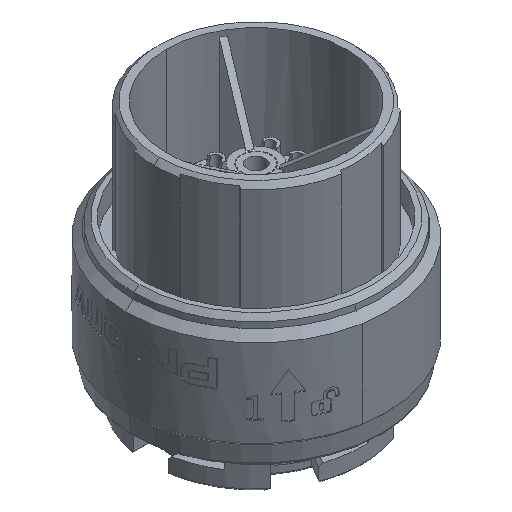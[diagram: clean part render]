
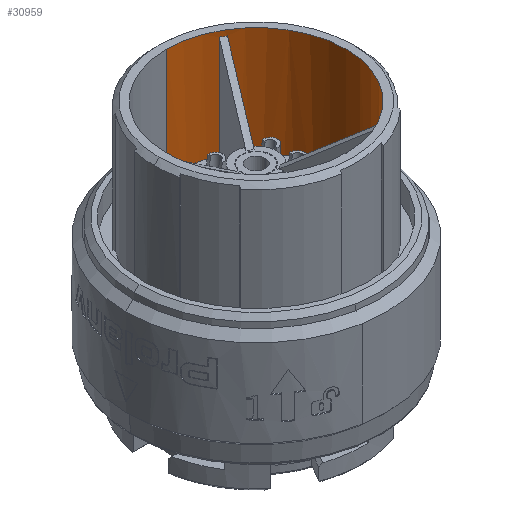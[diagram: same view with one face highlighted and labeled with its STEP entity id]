
A CAD part, isometric view. The second image highlights one B-rep face of the part: STEP entity #30959.
In plain terms, the highlighted cylindrical face has radius 14.8 mm (diameter 29.6 mm), a partial arc.
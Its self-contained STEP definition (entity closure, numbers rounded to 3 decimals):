
#7415=CARTESIAN_POINT('',(0.,0.,145.8));
#7416=DIRECTION('',(0.,0.,1.));
#7417=DIRECTION('',(0.,-1.,0.));
#7418=AXIS2_PLACEMENT_3D('',#7415,#7416,#7417);
#7425=DIRECTION('',(0.,0.,-1.));
#7426=VECTOR('',#7425,11.2);
#7427=CARTESIAN_POINT('',(10.904,-10.007,120.8));
#7428=LINE('',#7427,#7426);
#7429=DIRECTION('',(0.,0.,1.));
#7430=VECTOR('',#7429,11.2);
#7431=CARTESIAN_POINT('',(14.119,-4.439,109.6));
#7432=LINE('',#7431,#7430);
#7433=DIRECTION('',(0.,0.,-1.));
#7434=VECTOR('',#7433,11.2);
#7435=CARTESIAN_POINT('',(14.119,4.439,120.8));
#7436=LINE('',#7435,#7434);
#7437=DIRECTION('',(0.,0.,1.));
#7438=VECTOR('',#7437,11.2);
#7439=CARTESIAN_POINT('',(10.904,10.007,109.6));
#7440=LINE('',#7439,#7438);
#7441=DIRECTION('',(0.,0.,-1.));
#7442=VECTOR('',#7441,11.2);
#7443=CARTESIAN_POINT('',(3.215,14.447,120.8));
#7444=LINE('',#7443,#7442);
#7445=DIRECTION('',(0.,0.,1.));
#7446=VECTOR('',#7445,36.2);
#7447=CARTESIAN_POINT('',(0.,14.8,109.6));
#7448=LINE('',#7447,#7446);
#7449=DIRECTION('',(0.,0.,1.));
#7450=VECTOR('',#7449,11.2);
#7451=CARTESIAN_POINT('',(3.215,-14.447,109.6));
#7452=LINE('',#7451,#7450);
#7470=DIRECTION('',(0.,0.,-1.));
#7471=VECTOR('',#7470,24.1);
#7472=CARTESIAN_POINT('',(6.963,-13.06,144.9));
#7473=LINE('',#7472,#7471);
#7536=CARTESIAN_POINT('',(0.,0.,120.8));
#7537=DIRECTION('',(0.,0.,-1.));
#7538=DIRECTION('',(0.47,-0.882,0.));
#7539=AXIS2_PLACEMENT_3D('',#7536,#7537,#7538);
#7566=CARTESIAN_POINT('',(0.,0.,109.6));
#7567=DIRECTION('',(0.,0.,-1.));
#7568=DIRECTION('',(0.217,-0.976,0.));
#7569=AXIS2_PLACEMENT_3D('',#7566,#7567,#7568);
#7600=DIRECTION('',(0.,0.,1.));
#7601=VECTOR('',#7600,36.2);
#7602=CARTESIAN_POINT('',(0.,-14.8,109.6));
#7603=LINE('',#7602,#7601);
#7650=CARTESIAN_POINT('',(0.,0.,109.6));
#7651=DIRECTION('',(0.,0.,-1.));
#7652=DIRECTION('',(0.,1.,0.));
#7653=AXIS2_PLACEMENT_3D('',#7650,#7651,#7652);
#7730=DIRECTION('',(0.,0.,1.));
#7731=VECTOR('',#7730,24.1);
#7732=CARTESIAN_POINT('',(6.963,13.06,120.8));
#7733=LINE('',#7732,#7731);
#7747=CARTESIAN_POINT('',(0.,0.,
144.9));
#7748=DIRECTION('',(0.,0.,-1.));
#7749=DIRECTION('',(0.47,0.882,0.));
#7750=AXIS2_PLACEMENT_3D('',#7747,#7748,#7749);
#7765=DIRECTION('',(0.,0.,-1.));
#7766=VECTOR('',#7765,24.1);
#7767=CARTESIAN_POINT('',(7.829,12.56,144.9));
#7768=LINE('',#7767,#7766);
#7793=DIRECTION('',(0.,0.,1.));
#7794=VECTOR('',#7793,24.1);
#7795=CARTESIAN_POINT('',(7.829,-12.56,120.8));
#7796=LINE('',#7795,#7794);
#7810=CARTESIAN_POINT('',(0.,0.,
144.9));
#7811=DIRECTION('',(0.,0.,-1.));
#7812=DIRECTION('',(0.529,-0.849,0.));
#7813=AXIS2_PLACEMENT_3D('',#7810,#7811,#7812);
#16930=CARTESIAN_POINT('',(0.,0.,120.8));
#16931=DIRECTION('',(0.,0.,-1.));
#16932=DIRECTION('',(0.737,-0.676,0.));
#16933=AXIS2_PLACEMENT_3D('',#16930,#16931,#16932);
#16943=CARTESIAN_POINT('',(0.,0.,109.6));
#16944=DIRECTION('',(0.,0.,-1.));
#16945=DIRECTION('',(0.954,-0.3,0.));
#16946=AXIS2_PLACEMENT_3D('',#16943,#16944,#16945);
#16998=CARTESIAN_POINT('',(0.,0.,120.8));
#16999=DIRECTION('',(0.,0.,-1.));
#17000=DIRECTION('',(0.954,0.3,0.));
#17001=AXIS2_PLACEMENT_3D('',#16998,#16999,#17000);
#17011=CARTESIAN_POINT('',(0.,0.,109.6));
#17012=DIRECTION('',(0.,0.,-1.));
#17013=DIRECTION('',(0.737,0.676,0.));
#17014=AXIS2_PLACEMENT_3D('',#17011,#17012,#17013);
#17040=CARTESIAN_POINT('',(0.,0.,120.8));
#17041=DIRECTION('',(0.,0.,-1.));
#17042=DIRECTION('',(0.529,0.849,0.));
#17043=AXIS2_PLACEMENT_3D('',#17040,#17041,#17042);
#17065=CARTESIAN_POINT('',(0.,0.,120.8));
#17066=DIRECTION('',(0.,0.,-1.));
#17067=DIRECTION('',(0.217,0.976,0.));
#17068=AXIS2_PLACEMENT_3D('',#17065,#17066,#17067);
#18196=CARTESIAN_POINT('',(0.,-14.8,145.8));
#18197=CARTESIAN_POINT('',(0.,14.8,145.8));
#18198=VERTEX_POINT('',#18196);
#18199=VERTEX_POINT('',#18197);
#18200=CARTESIAN_POINT('',(6.963,-13.06,
144.9));
#18201=CARTESIAN_POINT('',(6.963,-13.06,120.8));
#18202=VERTEX_POINT('',#18200);
#18203=VERTEX_POINT('',#18201);
#18204=CARTESIAN_POINT('',(7.829,-12.56,
144.9));
#18205=VERTEX_POINT('',#18204);
#18206=CARTESIAN_POINT('',(7.829,-12.56,120.8));
#18207=VERTEX_POINT('',#18206);
#18208=CARTESIAN_POINT('',(10.904,-10.007,120.8));
#18209=VERTEX_POINT('',#18208);
#18210=CARTESIAN_POINT('',(10.904,-10.007,109.6));
#18211=VERTEX_POINT('',#18210);
#18212=CARTESIAN_POINT('',(14.119,-4.439,109.6));
#18213=VERTEX_POINT('',#18212);
#18214=CARTESIAN_POINT('',(14.119,-4.439,120.8));
#18215=VERTEX_POINT('',#18214);
#18216=CARTESIAN_POINT('',(14.119,4.439,120.8));
#18217=VERTEX_POINT('',#18216);
#18218=CARTESIAN_POINT('',(14.119,4.439,109.6));
#18219=VERTEX_POINT('',#18218);
#18220=CARTESIAN_POINT('',(10.904,10.007,109.6));
#18221=VERTEX_POINT('',#18220);
#18222=CARTESIAN_POINT('',(10.904,10.007,120.8));
#18223=VERTEX_POINT('',#18222);
#18224=CARTESIAN_POINT('',(7.829,12.56,120.8));
#18225=VERTEX_POINT('',#18224);
#18226=CARTESIAN_POINT('',(7.829,12.56,144.9));
#18227=VERTEX_POINT('',#18226);
#18228=CARTESIAN_POINT('',(6.963,13.06,144.9));
#18229=VERTEX_POINT('',#18228);
#18230=CARTESIAN_POINT('',(6.963,13.06,120.8));
#18231=VERTEX_POINT('',#18230);
#18232=CARTESIAN_POINT('',(3.215,14.447,120.8));
#18233=VERTEX_POINT('',#18232);
#18234=CARTESIAN_POINT('',(3.215,14.447,109.6));
#18235=VERTEX_POINT('',#18234);
#18236=CARTESIAN_POINT('',(0.,14.8,109.6));
#18237=VERTEX_POINT('',#18236);
#18238=CARTESIAN_POINT('',(0.,-14.8,109.6));
#18239=VERTEX_POINT('',#18238);
#18240=CARTESIAN_POINT('',(3.215,-14.447,109.6));
#18241=VERTEX_POINT('',#18240);
#18242=CARTESIAN_POINT('',(3.215,-14.447,120.8));
#18243=VERTEX_POINT('',#18242);
#30905=CARTESIAN_POINT('',(0.,0.,
118.876));
#30906=DIRECTION('',(0.,0.,1.));
#30907=DIRECTION('',(0.,1.,0.));
#30908=AXIS2_PLACEMENT_3D('',#30905,#30906,#30907);
#30909=CYLINDRICAL_SURFACE('',#30908,14.8);
#30911=ORIENTED_EDGE('',*,*,#30910,.F.);
#30913=ORIENTED_EDGE('',*,*,#30912,.F.);
#30915=ORIENTED_EDGE('',*,*,#30914,.F.);
#30917=ORIENTED_EDGE('',*,*,#30916,.F.);
#30919=ORIENTED_EDGE('',*,*,#30918,.T.);
#30921=ORIENTED_EDGE('',*,*,#30920,.F.);
#30923=ORIENTED_EDGE('',*,*,#30922,.T.);
#30925=ORIENTED_EDGE('',*,*,#30924,.F.);
#30927=ORIENTED_EDGE('',*,*,#30926,.T.);
#30929=ORIENTED_EDGE('',*,*,#30928,.F.);
#30931=ORIENTED_EDGE('',*,*,#30930,.T.);
#30933=ORIENTED_EDGE('',*,*,#30932,.F.);
#30935=ORIENTED_EDGE('',*,*,#30934,.F.);
#30937=ORIENTED_EDGE('',*,*,#30936,.F.);
#30939=ORIENTED_EDGE('',*,*,#30938,.F.);
#30941=ORIENTED_EDGE('',*,*,#30940,.F.);
#30943=ORIENTED_EDGE('',*,*,#30942,.T.);
#30945=ORIENTED_EDGE('',*,*,#30944,.F.);
#30947=ORIENTED_EDGE('',*,*,#30946,.T.);
#30948=ORIENTED_EDGE('',*,*,#30898,.F.);
#30950=ORIENTED_EDGE('',*,*,#30949,.F.);
#30952=ORIENTED_EDGE('',*,*,#30951,.F.);
#30954=ORIENTED_EDGE('',*,*,#30953,.T.);
#30956=ORIENTED_EDGE('',*,*,#30955,.F.);
#30957=EDGE_LOOP('',(#30911,#30913,#30915,#30917,#30919,#30921,#30923,#30925,
#30927,#30929,#30931,#30933,#30935,#30937,#30939,#30941,#30943,#30945,#30947,
#30948,#30950,#30952,#30954,#30956));
#30958=FACE_OUTER_BOUND('',#30957,.F.);
#30959=ADVANCED_FACE('',(#30958),#30909,.F.);
#7419=CIRCLE('',#7418,14.8);
#7540=CIRCLE('',#7539,14.8);
#7570=CIRCLE('',#7569,14.8);
#7654=CIRCLE('',#7653,14.8);
#7751=CIRCLE('',#7750,14.8);
#7814=CIRCLE('',#7813,14.8);
#16934=CIRCLE('',#16933,14.8);
#16947=CIRCLE('',#16946,14.8);
#17002=CIRCLE('',#17001,14.8);
#17015=CIRCLE('',#17014,14.8);
#17044=CIRCLE('',#17043,14.8);
#17069=CIRCLE('',#17068,14.8);
#30898=EDGE_CURVE('',#18198,#18199,#7419,.T.);
#30910=EDGE_CURVE('',#18202,#18203,#7473,.T.);
#30912=EDGE_CURVE('',#18205,#18202,#7814,.T.);
#30914=EDGE_CURVE('',#18207,#18205,#7796,.T.);
#30916=EDGE_CURVE('',#18209,#18207,#16934,.T.);
#30918=EDGE_CURVE('',#18209,#18211,#7428,.T.);
#30920=EDGE_CURVE('',#18213,#18211,#16947,.T.);
#30922=EDGE_CURVE('',#18213,#18215,#7432,.T.);
#30924=EDGE_CURVE('',#18217,#18215,#17002,.T.);
#30926=EDGE_CURVE('',#18217,#18219,#7436,.T.);
#30928=EDGE_CURVE('',#18221,#18219,#17015,.T.);
#30930=EDGE_CURVE('',#18221,#18223,#7440,.T.);
#30932=EDGE_CURVE('',#18225,#18223,#17044,.T.);
#30934=EDGE_CURVE('',#18227,#18225,#7768,.T.);
#30936=EDGE_CURVE('',#18229,#18227,#7751,.T.);
#30938=EDGE_CURVE('',#18231,#18229,#7733,.T.);
#30940=EDGE_CURVE('',#18233,#18231,#17069,.T.);
#30942=EDGE_CURVE('',#18233,#18235,#7444,.T.);
#30944=EDGE_CURVE('',#18237,#18235,#7654,.T.);
#30946=EDGE_CURVE('',#18237,#18199,#7448,.T.);
#30949=EDGE_CURVE('',#18239,#18198,#7603,.T.);
#30951=EDGE_CURVE('',#18241,#18239,#7570,.T.);
#30953=EDGE_CURVE('',#18241,#18243,#7452,.T.);
#30955=EDGE_CURVE('',#18203,#18243,#7540,.T.);
